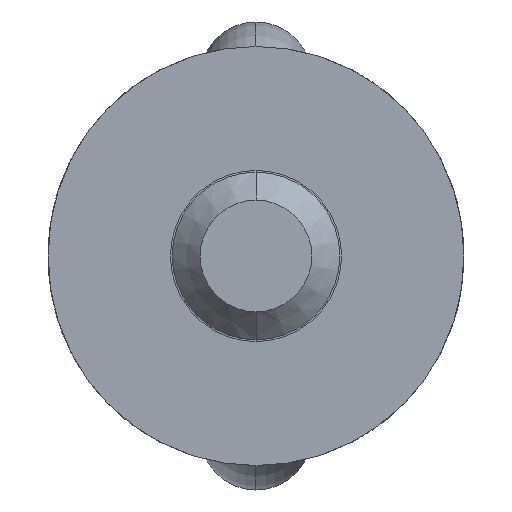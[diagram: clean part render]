
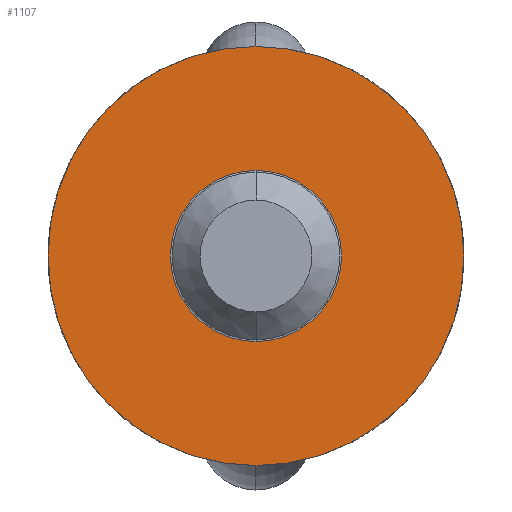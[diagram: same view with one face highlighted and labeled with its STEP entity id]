
A CAD part, front view. The second image highlights one B-rep face of the part: STEP entity #1107.
In plain terms, the highlighted planar face has unit normal (0, -1, 0).
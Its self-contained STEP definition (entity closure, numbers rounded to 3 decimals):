
#1107=ADVANCED_FACE('',(#2201,#2202),#2203,.F.);
#2201=FACE_OUTER_BOUND('',#11577,.T.);
#2202=FACE_BOUND('',#11578,.T.);
#2203=PLANE('',#11579);
#11577=EDGE_LOOP('',(#14335,#14336,#14337,#14338));
#11578=EDGE_LOOP('',(#14339,#14340));
#11579=AXIS2_PLACEMENT_3D('',#14341,#14342,#14343);
#14335=ORIENTED_EDGE('',*,*,#15501,.F.);
#14336=ORIENTED_EDGE('',*,*,#15455,.T.);
#14337=ORIENTED_EDGE('',*,*,#15570,.T.);
#14338=ORIENTED_EDGE('',*,*,#15483,.F.);
#14339=ORIENTED_EDGE('',*,*,#15436,.T.);
#14340=ORIENTED_EDGE('',*,*,#15746,.T.);
#14341=CARTESIAN_POINT('',(0.0,-109.5,0.0));
#14342=DIRECTION('',(0.0,1.0,0.0));
#14343=DIRECTION('',(1.0,0.0,-0.0));
#15436=EDGE_CURVE('',#17278,#17282,#17284,.T.);
#15455=EDGE_CURVE('',#17313,#17310,#17314,.T.);
#15483=EDGE_CURVE('',#17362,#17365,#17366,.T.);
#15501=EDGE_CURVE('',#17313,#17362,#17397,.T.);
#15570=EDGE_CURVE('',#17310,#17365,#17498,.T.);
#15746=EDGE_CURVE('',#17282,#17278,#17736,.T.);
#17278=VERTEX_POINT('',#25454);
#17282=VERTEX_POINT('',#25458);
#17284=CIRCLE('',#25460,24.5);
#17310=VERTEX_POINT('',#25494);
#17313=VERTEX_POINT('',#25498);
#17314=CIRCLE('',#25499,59.491);
#17362=VERTEX_POINT('',#25787);
#17365=VERTEX_POINT('',#25791);
#17366=CIRCLE('',#25792,59.491);
#17397=CIRCLE('',#26141,59.491);
#17498=CIRCLE('',#26932,59.491);
#17736=CIRCLE('',#28809,24.5);
#25454=CARTESIAN_POINT('',(0.0,-109.5,24.5));
#25458=CARTESIAN_POINT('',(0.,-109.5,-24.5));
#25460=AXIS2_PLACEMENT_3D('',#29759,#29760,#29761);
#25494=CARTESIAN_POINT('',(0.,-109.5,60.));
#25498=CARTESIAN_POINT('',(59.489,-109.5,0.0));
#25499=AXIS2_PLACEMENT_3D('',#29783,#29784,#29785);
#25787=CARTESIAN_POINT('',(0.,-109.5,-60.));
#25791=CARTESIAN_POINT('',(-59.489,-109.5,0.0));
#25792=AXIS2_PLACEMENT_3D('',#29801,#29802,#29803);
#26141=AXIS2_PLACEMENT_3D('',#29814,#29815,#29816);
#26932=AXIS2_PLACEMENT_3D('',#29847,#29848,#29849);
#28809=AXIS2_PLACEMENT_3D('',#29978,#29979,#29980);
#29759=CARTESIAN_POINT('',(0.0,-109.5,0.0));
#29760=DIRECTION('',(0.0,1.0,0.0));
#29761=DIRECTION('',(0.0,0.0,1.0));
#29783=CARTESIAN_POINT('',(0.0,-109.5,0.509));
#29784=DIRECTION('',(0.0,-1.0,0.0));
#29785=DIRECTION('',(0.0,0.0,1.0));
#29801=CARTESIAN_POINT('',(0.0,-109.5,-0.509));
#29802=DIRECTION('',(0.0,1.0,0.0));
#29803=DIRECTION('',(0.0,0.0,-1.0));
#29814=CARTESIAN_POINT('',(0.0,-109.5,-0.509));
#29815=DIRECTION('',(0.0,1.0,0.0));
#29816=DIRECTION('',(0.0,0.0,-1.0));
#29847=CARTESIAN_POINT('',(0.0,-109.5,0.509));
#29848=DIRECTION('',(0.0,-1.0,0.0));
#29849=DIRECTION('',(0.0,0.0,1.0));
#29978=CARTESIAN_POINT('',(0.0,-109.5,0.0));
#29979=DIRECTION('',(0.0,1.0,0.0));
#29980=DIRECTION('',(0.0,0.0,1.0));
